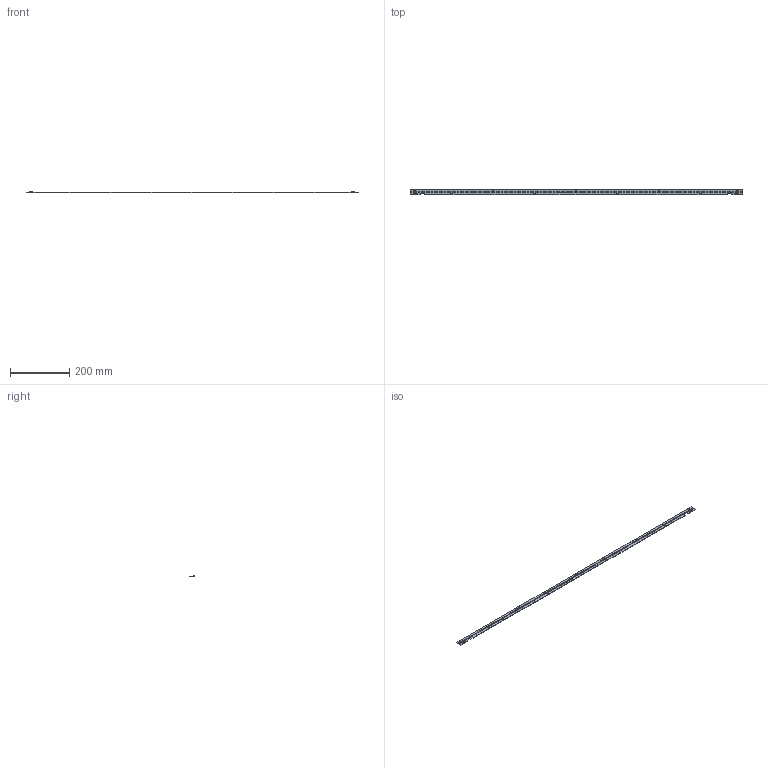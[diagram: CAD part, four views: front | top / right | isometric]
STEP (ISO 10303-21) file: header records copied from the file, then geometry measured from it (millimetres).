
FILE_DESCRIPTION(('Open CASCADE Model'),'2;1');
FILE_NAME('Open CASCADE Shape Model','2025-07-25T10:03:37',('Author'),( 'Open CASCADE'),'Open CASCADE STEP processor 7.5','Open CASCADE 7.5' ,'Unknown');
FILE_SCHEMA(('AUTOMOTIVE_DESIGN { 1 0 10303 214 1 1 1 1 }'));
Length unit declared in the file: millimetre
Products named in the file (143): PCB; Board; Open CASCADE STEP translator 7.5 4.1.1; R16; 7155565568; Extruded; 7155565808; ET1; 7155566528; J2; BJB 46.101.1001; J1; DL128; LUXEON_2835_20160407_STEP_RGB60909; DL127; DL126; DL125; DL124; DL123; DL122; DL121; DL120; DL119; DL118; DL117; DL116; DL115; DL114; DL113; DL112; DL111; DL110; DL109; DL108; DL107; DL106; DL105; DL104; DL103; DL102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
Assembly tree (271 placements, depth 4):
  PCB
    Board
      Open CASCADE STEP translator 7.5 4.1.1
    R16
      7155565568
        Extruded
      7155565808  x2
        Extruded
    ET1
      7155566528
        Extruded
    J2
      BJB 46.101.1001
    J1
      BJB 46.101.1001
    DL128
      LUXEON_2835_20160407_STEP_RGB60909
    DL127
      LUXEON_2835_20160407_STEP_RGB60909
    DL126
      LUXEON_2835_20160407_STEP_RGB60909
    DL125
      LUXEON_2835_20160407_STEP_RGB60909
    DL124
      LUXEON_2835_20160407_STEP_RGB60909
    DL123
      LUXEON_2835_20160407_STEP_RGB60909
    DL122
      LUXEON_2835_20160407_STEP_RGB60909
    DL121
      LUXEON_2835_20160407_STEP_RGB60909
    DL120
      LUXEON_2835_20160407_STEP_RGB60909
    DL119
      LUXEON_2835_20160407_STEP_RGB60909
    DL118
      LUXEON_2835_20160407_STEP_RGB60909
    DL117
      LUXEON_2835_20160407_STEP_RGB60909
    DL116
      LUXEON_2835_20160407_STEP_RGB60909
    DL115
      LUXEON_2835_20160407_STEP_RGB60909
    DL114
      LUXEON_2835_20160407_STEP_RGB60909
    DL113
      LUXEON_2835_20160407_STEP_RGB60909
    DL112
      LUXEON_2835_20160407_STEP_RGB60909
    DL111
      LUXEON_2835_20160407_STEP_RGB60909
    DL110
      LUXEON_2835_20160407_STEP_RGB60909
    DL109
      LUXEON_2835_20160407_STEP_RGB60909
    DL108
      LUXEON_2835_20160407_STEP_RGB60909
    DL107
      LUXEON_2835_20160407_STEP_RGB60909
    DL106
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Bounding box: 1119.6 x 20 x 5.49 mm (x, y, z)
Volume: 35377 mm3; surface area: 52230.5 mm2
Topology: 135 solids, 135 shells, 16514 faces, 46006 edges, 30236 vertices
Faces by surface type: plane 11205, cylinder 5181, bspline 128
Full cylindrical faces by diameter (mm): 3.2 x1
Entity records: 51107 total; most frequent: CARTESIAN_POINT 10514, ORIENTED_EDGE 7576, DIRECTION 7443, EDGE_CURVE 3788, LINE 3013, VECTOR 3013, VERTEX_POINT 2518, AXIS2_PLACEMENT_3D 2215
